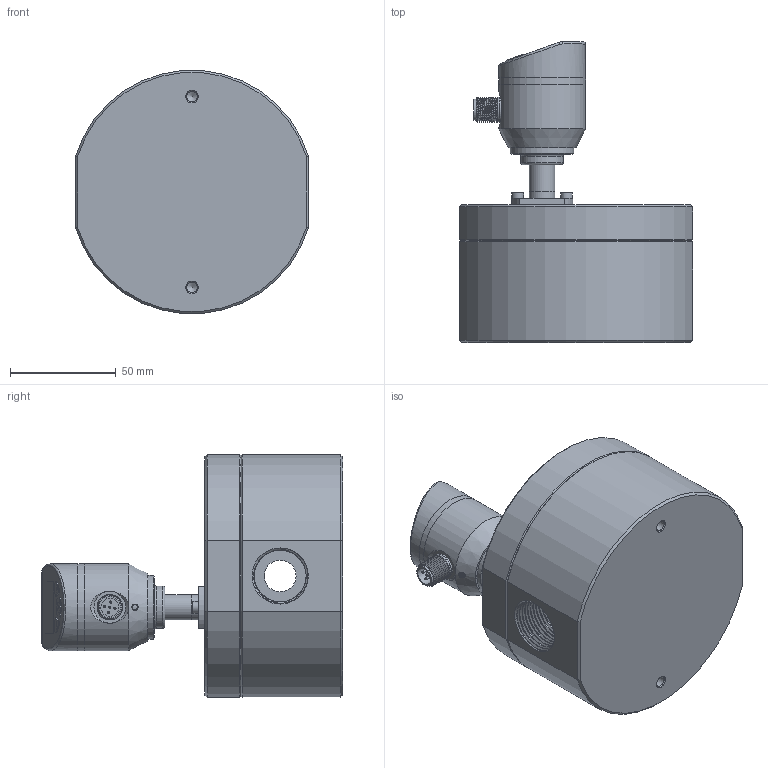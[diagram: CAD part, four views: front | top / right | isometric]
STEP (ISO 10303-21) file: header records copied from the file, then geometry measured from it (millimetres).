
FILE_DESCRIPTION( (''), '2;1');
FILE_NAME( 'QZKA_M15_G3-4.step', '2024-02-26T10:46:06+08:00', (''), (''), '', '', '');
FILE_SCHEMA (('AUTOMOTIVE_DESIGN { 1 0 10303 214 3 1 1 1 }'));
Length unit declared in the file: millimetre
Products named in the file (1): QZKA M15_G3-4
Bounding box: 110 x 142.2 x 114.58 mm (x, y, z)
Volume: 668514.7 mm3; surface area: 114200.7 mm2
Topology: 17 solids, 18 shells, 751 faces, 1639 edges, 980 vertices
Faces by surface type: plane 314, cylinder 192, cone 148, torus 59, bspline 32, sphere 6
Full cylindrical faces by diameter (mm): 1 x5, 2.7 x4, 2.874 x2, 3.5 x2, 5 x10, 5.5 x2, 6.8 x8, 7.76 x8, 8 x2, 8.4 x1, 9 x8, 9.7 x1, 9.8 x1, 10 x2, 10.1 x1, 11 x1, 11.6 x1, 12 x3, 13 x8, 14 x8, 15 x1, 16.5 x1, 20 x1, 23 x3, 26 x4, 26.1 x1, 30 x1, 37 x1, 41 x3
Entity records: 36912 total; most frequent: CARTESIAN_POINT 20158, DIRECTION 3236, ORIENTED_EDGE 2736, EDGE_CURVE 1368, AXIS2_PLACEMENT_3D 1345, EDGE_LOOP 1020, VERTEX_POINT 924, ADVANCED_FACE 748
